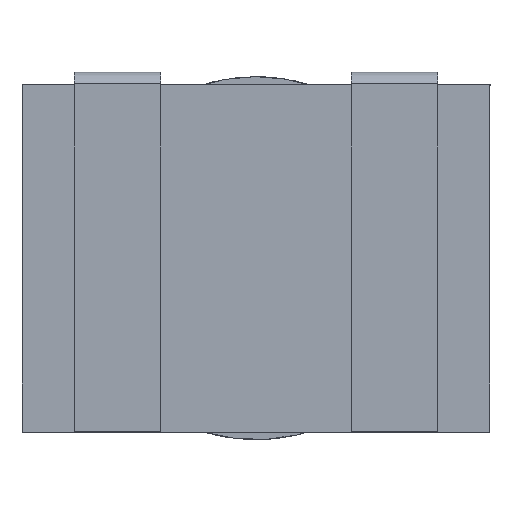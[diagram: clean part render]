
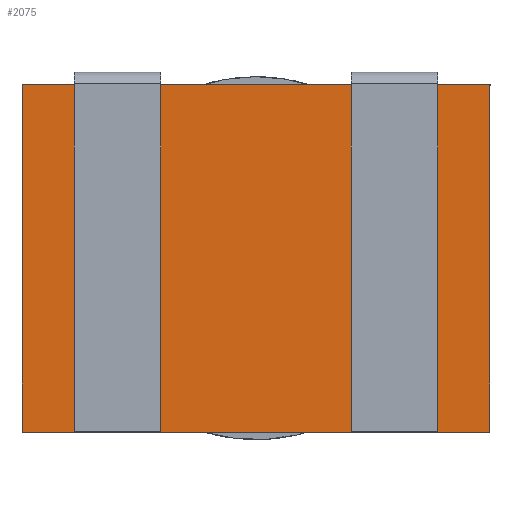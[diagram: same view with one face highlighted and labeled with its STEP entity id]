
A CAD part, front view. The second image highlights one B-rep face of the part: STEP entity #2075.
In plain terms, the highlighted planar face has unit normal (0, -1, 0).
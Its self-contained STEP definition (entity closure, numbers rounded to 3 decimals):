
#72 = CARTESIAN_POINT ( 'NONE',  ( -6.51, 0., -4.84 ) ) ;
#141 = DIRECTION ( 'NONE',  ( 0., 0., -1. ) ) ;
#165 = ORIENTED_EDGE ( 'NONE', *, *, #1103, .F. ) ;
#189 = CARTESIAN_POINT ( 'NONE',  ( 6.51, 0., -4.84 ) ) ;
#190 = VERTEX_POINT ( 'NONE', #686 ) ;
#295 = VECTOR ( 'NONE', #298, 1000. ) ;
#298 = DIRECTION ( 'NONE',  ( -1., 0., 0. ) ) ;
#300 = DIRECTION ( 'NONE',  ( 0., 0., 1. ) ) ;
#437 = EDGE_CURVE ( 'NONE', #973, #190, #1236, .T. ) ;
#440 = CARTESIAN_POINT ( 'NONE',  ( -6.51, 0., -4.84 ) ) ;
#480 = DIRECTION ( 'NONE',  ( 1., 0., 0. ) ) ;
#551 = DIRECTION ( 'NONE',  ( 0., -1., 0. ) ) ;
#558 = LINE ( 'NONE', #72, #295 ) ;
#641 = VECTOR ( 'NONE', #300, 1000. ) ;
#678 = EDGE_CURVE ( 'NONE', #2527, #1766, #1102, .T. ) ;
#686 = CARTESIAN_POINT ( 'NONE',  ( -6.51, 0., 4.84 ) ) ;
#762 = DIRECTION ( 'NONE',  ( 0., 0., -1. ) ) ;
#973 = VERTEX_POINT ( 'NONE', #440 ) ;
#1102 = LINE ( 'NONE', #2331, #1655 ) ;
#1103 = EDGE_CURVE ( 'NONE', #1766, #973, #558, .T. ) ;
#1172 = CARTESIAN_POINT ( 'NONE',  ( -6.51, 0., 4.84 ) ) ;
#1177 = AXIS2_PLACEMENT_3D ( 'NONE', #1870, #551, #762 ) ;
#1236 = LINE ( 'NONE', #1629, #641 ) ;
#1422 = EDGE_CURVE ( 'NONE', #190, #2527, #2837, .T. ) ;
#1578 = ORIENTED_EDGE ( 'NONE', *, *, #1422, .F. ) ;
#1629 = CARTESIAN_POINT ( 'NONE',  ( -6.51, 0., 4.84 ) ) ;
#1655 = VECTOR ( 'NONE', #141, 1000. ) ;
#1667 = VECTOR ( 'NONE', #480, 1000. ) ;
#1668 = PLANE ( 'NONE',  #1177 ) ;
#1766 = VERTEX_POINT ( 'NONE', #189 ) ;
#1870 = CARTESIAN_POINT ( 'NONE',  ( 0., 0., 0. ) ) ;
#2075 = ADVANCED_FACE ( 'NONE', ( #2465 ), #1668, .T. ) ;
#2331 = CARTESIAN_POINT ( 'NONE',  ( 6.51, 0., 4.84 ) ) ;
#2458 = EDGE_LOOP ( 'NONE', ( #2844, #1578, #2491, #165 ) ) ;
#2465 = FACE_OUTER_BOUND ( 'NONE', #2458, .T. ) ;
#2491 = ORIENTED_EDGE ( 'NONE', *, *, #437, .F. ) ;
#2527 = VERTEX_POINT ( 'NONE', #2819 ) ;
#2819 = CARTESIAN_POINT ( 'NONE',  ( 6.51, 0., 4.84 ) ) ;
#2837 = LINE ( 'NONE', #1172, #1667 ) ;
#2844 = ORIENTED_EDGE ( 'NONE', *, *, #678, .F. ) ;
